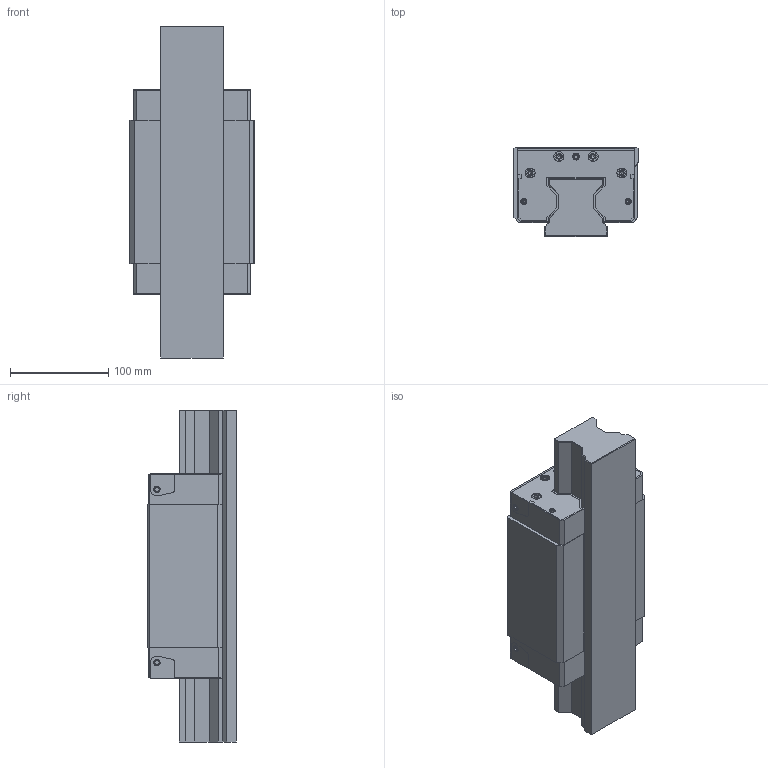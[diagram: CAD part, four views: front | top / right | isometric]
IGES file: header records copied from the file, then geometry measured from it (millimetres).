
Start section: 3D InterOp IGES (v. 2019 1.0.2), Spatial Corp. Copyright (c) 1999-2017.
Global section: file name: R1822_size65.igs; native system: Spatial Corp.; preprocessor: 3D InterOp GENERIC/IGES 3.0; author: Noname; organization: Noname; date: 20220630.112858; units: millimetre
Bounding box: 126 x 90 x 337.3 mm (x, y, z)
Surface area: 287680.5 mm2 (no closed solid volume)
Topology: 0 solids, 0 shells, 590 faces, 3140 edges, 3092 vertices
Faces by surface type: extrusion 334, revolution 256
